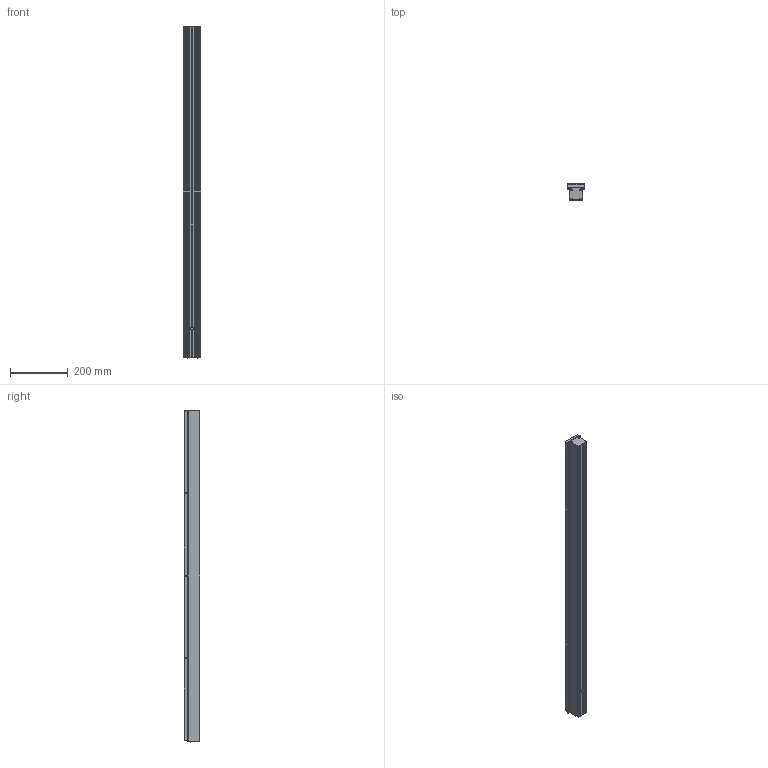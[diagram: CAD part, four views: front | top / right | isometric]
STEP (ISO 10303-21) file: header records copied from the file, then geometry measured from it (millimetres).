
FILE_DESCRIPTION (( 'STEP AP214' ), '1' );
FILE_NAME ('Pixel P 11.STEP', '2017-10-10T10:02:15', ( 'tecnica2' ), ( 'Microsoft' ), 'SwSTEP 2.0', 'SolidWorks 2016', '' );
FILE_SCHEMA (( 'AUTOMOTIVE_DESIGN' ));
Length unit declared in the file: millimetre
Products named in the file (6): Perfil LED-BIM_X4 (L:1150); Pixel P 11; TT 65 T 3X6; Tapa-BIM_definitiva; Perfil DRIVER-BIM_X4 (L:1150mm); lente-BIM
Assembly tree (12 placements, depth 2):
  Pixel P 11
    Perfil LED-BIM_X4 (L:1150)
    lente-BIM  x4
    Perfil DRIVER-BIM_X4 (L:1150mm)
    Tapa-BIM_definitiva  x2
    TT 65 T 3X6  x4
Bounding box: 62 x 55.3 x 1154 mm (x, y, z)
Volume: 2919203.6 mm3; surface area: 606543.1 mm2
Topology: 12 solids, 12 shells, 646 faces, 1542 edges, 892 vertices
Faces by surface type: cylinder 238, plane 212, cone 84, bspline 80, torus 16, sphere 16
Entity records: 8953 total; most frequent: CARTESIAN_POINT 1751, DIRECTION 1310, ORIENTED_EDGE 1224, EDGE_CURVE 612, AXIS2_PLACEMENT_3D 478, VERTEX_POINT 380, LINE 354, VECTOR 354
